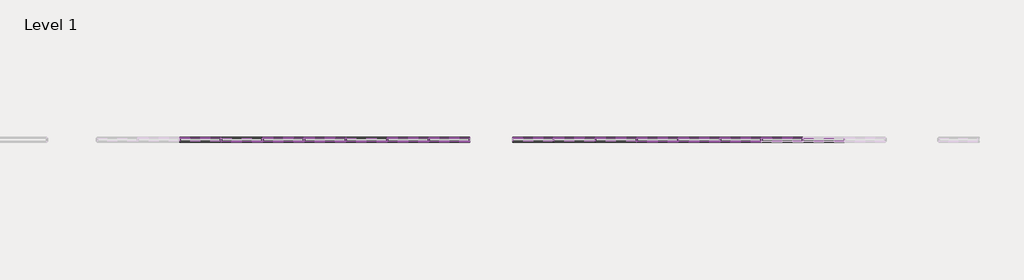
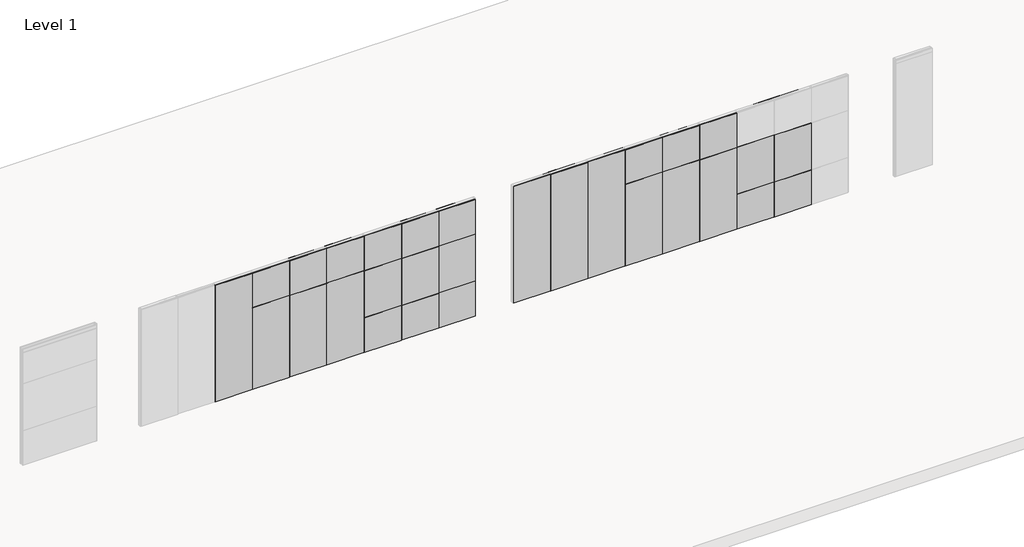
# One storey, part 9 of 22: 108 proxies.
"""IFC4 building model written with IfcOpenShell, lengths in millimetres."""

from ifc_helpers import new_model, si_unit, origin, place, context, project, spatial, transform, mapped, element, save
from components import fascia_teknion_ceiling_and_base_fpb1_33541465, fascia_teknion_ceiling_and_base_fpb1_a659cb20, fascia_teknion_ceiling_and_base_fpb1_fca0640a, fascia_teknion_ceiling_and_base_fpb1_76749516, frame_teknion_horizontal_rail_5872ae1a, frame_teknion_horizontal_rail_46ee653b, level_ii_d92933f0, level_ii_5838736d, level_ii_d9937d3a, level_ii_c8f04d20, monolithic_level_i_61e75e15, monolithic_level_i_13c59c03, monolithic_level_i_9525b381, monolithic_level_i_6e13c29d, monolithic_level_i_b876e52f, segmented_monolithic_level_i_26a9d159, segmented_monolithic_level_i_a3fcbb55, segmented_monolithic_level_i_932c30e3, segmented_monolithic_level_ii_ef75357c, segmented_monolithic_level_ii_062cb124, level_iii_17d9b208, working_wall_monolithic_level_i_ddfac440, working_wall_monolithic_level_i_34c567cd, working_wall_monolithic_level_i_759ace73, working_wall_monolithic_level_i_dc7e04ae, working_wall_monolithic_level_i_f3196e79, working_wall_monolithic_level_iii_b79156b4, working_wall_monolithic_level_iii_e35548a4

model = new_model("IFC4")

# Units and contexts
model_context = context("Model", 3, world=origin())
ifc_project = project(units=[si_unit("LENGTHUNIT", "METRE", prefix="MILLI")], contexts=[model_context])

# Site, building, storey
site = spatial("IfcSite", under=ifc_project)
building = spatial("IfcBuilding", under=site)
storey = spatial("IfcBuildingStorey", under=building, Name="Level 1", Elevation=0.0)

# Proxies
placement = place(None, origin())
fascia_teknion_ceiling_and_base_fpb1_shape = fascia_teknion_ceiling_and_base_fpb1_33541465(model_context)
element("IfcBuildingElementProxy", 1, Name="Fascia-Teknion-Ceiling_and_Base : FPB1", ObjectType="Fascia-Teknion-Ceiling_and_Base : FPB1", at=placement, inside=storey, context=model_context, shape_type="MappedRepresentation", body=[
    mapped(fascia_teknion_ceiling_and_base_fpb1_shape, transform((-45272.1636663, 1843.3402105, 15.875), x_axis=(1.0, 0.0, 0.0), y_axis=(0.0, 1.0, 0.0), z_axis=(0.0, 0.0, 1.0))),
])
fascia_teknion_ceiling_and_base_fpb1_2_shape = fascia_teknion_ceiling_and_base_fpb1_a659cb20(model_context)
element("IfcBuildingElementProxy", 2, Name="Fascia-Teknion-Ceiling_and_Base : FPB1", ObjectType="Fascia-Teknion-Ceiling_and_Base : FPB1", at=placement, inside=storey, context=model_context, shape_type="MappedRepresentation", body=[
    mapped(fascia_teknion_ceiling_and_base_fpb1_2_shape, transform((-50751.5687444, 1843.3402105, 15.875), x_axis=(1.0, 0.0, 0.0), y_axis=(0.0, 1.0, 0.0), z_axis=(0.0, 0.0, 1.0))),
])
element("IfcBuildingElementProxy", 3, Name="Fascia-Teknion-Ceiling_and_Base : FPB1", ObjectType="Fascia-Teknion-Ceiling_and_Base : FPB1", at=placement, inside=storey, context=model_context, shape_type="MappedRepresentation", body=[
    mapped(fascia_teknion_ceiling_and_base_fpb1_2_shape, transform((-48922.7687444, 1843.3402105, 15.875), x_axis=(1.0, 0.0, 0.0), y_axis=(0.0, 1.0, 0.0), z_axis=(0.0, 0.0, 1.0))),
])
element("IfcBuildingElementProxy", 4, Name="Fascia-Teknion-Ceiling_and_Base : FPB1", ObjectType="Fascia-Teknion-Ceiling_and_Base : FPB1", at=placement, inside=storey, context=model_context, shape_type="MappedRepresentation", body=[
    mapped(fascia_teknion_ceiling_and_base_fpb1_2_shape, transform((-48008.3687444, 1843.3402105, 15.875), x_axis=(1.0, 0.0, 0.0), y_axis=(0.0, 1.0, 0.0), z_axis=(0.0, 0.0, 1.0))),
])
element("IfcBuildingElementProxy", 5, Name="Fascia-Teknion-Ceiling_and_Base : FPB1", ObjectType="Fascia-Teknion-Ceiling_and_Base : FPB1", at=placement, inside=storey, context=model_context, shape_type="MappedRepresentation", body=[
    mapped(fascia_teknion_ceiling_and_base_fpb1_2_shape, transform((-46179.5687444, 1843.3402105, 15.875), x_axis=(1.0, 0.0, 0.0), y_axis=(0.0, 1.0, 0.0), z_axis=(0.0, 0.0, 1.0))),
])
element("IfcBuildingElementProxy", 6, Name="Fascia-Teknion-Ceiling_and_Base : FPB1", ObjectType="Fascia-Teknion-Ceiling_and_Base : FPB1", at=placement, inside=storey, context=model_context, shape_type="MappedRepresentation", body=[
    mapped(fascia_teknion_ceiling_and_base_fpb1_2_shape, transform((-49837.1687444, 1843.3402105, 15.875), x_axis=(1.0, 0.0, 0.0), y_axis=(0.0, 1.0, 0.0), z_axis=(0.0, 0.0, 1.0))),
])
element("IfcBuildingElementProxy", 7, Name="Fascia-Teknion-Ceiling_and_Base : FPB1", ObjectType="Fascia-Teknion-Ceiling_and_Base : FPB1", at=placement, inside=storey, context=model_context, shape_type="MappedRepresentation", body=[
    mapped(fascia_teknion_ceiling_and_base_fpb1_2_shape, transform((-47093.9687444, 1843.3402105, 15.875), x_axis=(1.0, 0.0, 0.0), y_axis=(0.0, 1.0, 0.0), z_axis=(0.0, 0.0, 1.0))),
])
fascia_teknion_ceiling_and_base_fpb1_3_shape = fascia_teknion_ceiling_and_base_fpb1_fca0640a(model_context)
element("IfcBuildingElementProxy", 8, Name="Fascia-Teknion-Ceiling_and_Base : FPC", ObjectType="Fascia-Teknion-Ceiling_and_Base : FPC", at=placement, inside=storey, context=model_context, shape_type="MappedRepresentation", body=[
    mapped(fascia_teknion_ceiling_and_base_fpb1_3_shape, transform((-42521.9687444, 1843.3402105, 2950.845), x_axis=(1.0, 0.0, 0.0), y_axis=(0.0, 1.0, 0.0), z_axis=(0.0, 0.0, 1.0))),
])
element("IfcBuildingElementProxy", 9, Name="Fascia-Teknion-Ceiling_and_Base : FPC", ObjectType="Fascia-Teknion-Ceiling_and_Base : FPC", at=placement, inside=storey, context=model_context, shape_type="MappedRepresentation", body=[
    mapped(fascia_teknion_ceiling_and_base_fpb1_3_shape, transform((-40693.1687444, 1843.3402105, 2950.845), x_axis=(1.0, 0.0, 0.0), y_axis=(0.0, 1.0, 0.0), z_axis=(0.0, 0.0, 1.0))),
])
element("IfcBuildingElementProxy", 10, Name="Fascia-Teknion-Ceiling_and_Base : FPC", ObjectType="Fascia-Teknion-Ceiling_and_Base : FPC", at=placement, inside=storey, context=model_context, shape_type="MappedRepresentation", body=[
    mapped(fascia_teknion_ceiling_and_base_fpb1_3_shape, transform((-39778.7687444, 1843.3402105, 2950.845), x_axis=(1.0, 0.0, 0.0), y_axis=(0.0, 1.0, 0.0), z_axis=(0.0, 0.0, 1.0))),
])
element("IfcBuildingElementProxy", 11, Name="Fascia-Teknion-Ceiling_and_Base : FPC", ObjectType="Fascia-Teknion-Ceiling_and_Base : FPC", at=placement, inside=storey, context=model_context, shape_type="MappedRepresentation", body=[
    mapped(fascia_teknion_ceiling_and_base_fpb1_3_shape, transform((-37949.9687444, 1843.3402105, 2950.845), x_axis=(1.0, 0.0, 0.0), y_axis=(0.0, 1.0, 0.0), z_axis=(0.0, 0.0, 1.0))),
])
element("IfcBuildingElementProxy", 12, Name="Fascia-Teknion-Ceiling_and_Base : FPC", ObjectType="Fascia-Teknion-Ceiling_and_Base : FPC", at=placement, inside=storey, context=model_context, shape_type="MappedRepresentation", body=[
    mapped(fascia_teknion_ceiling_and_base_fpb1_3_shape, transform((-37035.5687444, 1843.3402105, 2950.845), x_axis=(1.0, 0.0, 0.0), y_axis=(0.0, 1.0, 0.0), z_axis=(0.0, 0.0, 1.0))),
])
element("IfcBuildingElementProxy", 13, Name="Fascia-Teknion-Ceiling_and_Base : FPC", ObjectType="Fascia-Teknion-Ceiling_and_Base : FPC", at=placement, inside=storey, context=model_context, shape_type="MappedRepresentation", body=[
    mapped(fascia_teknion_ceiling_and_base_fpb1_3_shape, transform((-41607.5687444, 1843.3402105, 2950.845), x_axis=(1.0, 0.0, 0.0), y_axis=(0.0, 1.0, 0.0), z_axis=(0.0, 0.0, 1.0))),
])
element("IfcBuildingElementProxy", 14, Name="Fascia-Teknion-Ceiling_and_Base : FPC", ObjectType="Fascia-Teknion-Ceiling_and_Base : FPC", at=placement, inside=storey, context=model_context, shape_type="MappedRepresentation", body=[
    mapped(fascia_teknion_ceiling_and_base_fpb1_3_shape, transform((-38864.3687444, 1843.3402105, 2950.845), x_axis=(1.0, 0.0, 0.0), y_axis=(0.0, 1.0, 0.0), z_axis=(0.0, 0.0, 1.0))),
])
fascia_teknion_ceiling_and_base_fpb1_4_shape = fascia_teknion_ceiling_and_base_fpb1_76749516(model_context)
element("IfcBuildingElementProxy", 15, Name="Fascia-Teknion-Ceiling_and_Base : FPC", ObjectType="Fascia-Teknion-Ceiling_and_Base : FPC", at=placement, inside=storey, context=model_context, shape_type="MappedRepresentation", body=[
    mapped(fascia_teknion_ceiling_and_base_fpb1_4_shape, transform((-43429.3738225, 1843.3402105, 2950.845), x_axis=(1.0, 0.0, 0.0), y_axis=(0.0, 1.0, 0.0), z_axis=(0.0, 0.0, 1.0))),
])
frame_teknion_horizontal_rail_shape = frame_teknion_horizontal_rail_5872ae1a(model_context)
element("IfcBuildingElementProxy", 16, Name="Frame-Teknion-Horizontal_Rail : FPKK", ObjectType="Frame-Teknion-Horizontal_Rail : FPKK", at=placement, inside=storey, context=model_context, shape_type="MappedRepresentation", body=[
    mapped(frame_teknion_horizontal_rail_shape, transform((-43429.3738225, 1812.3522105, 2949.1305), x_axis=(1.0, 0.0, 0.0), y_axis=(0.0, 1.0, 0.0), z_axis=(0.0, 0.0, 1.0))),
])
element("IfcBuildingElementProxy", 17, Name="Frame-Teknion-Horizontal_Rail : FPKK", ObjectType="Frame-Teknion-Horizontal_Rail : FPKK", at=placement, inside=storey, context=model_context, shape_type="MappedRepresentation", body=[
    mapped(frame_teknion_horizontal_rail_shape, transform((-45272.1636663, 1812.3522105, 917.575), x_axis=(1.0, 0.0, 0.0), y_axis=(0.0, 1.0, 0.0), z_axis=(0.0, 0.0, 1.0))),
])
element("IfcBuildingElementProxy", 18, Name="Frame-Teknion-Horizontal_Rail : FPKK", ObjectType="Frame-Teknion-Horizontal_Rail : FPKK", at=placement, inside=storey, context=model_context, shape_type="MappedRepresentation", body=[
    mapped(frame_teknion_horizontal_rail_shape, transform((-45272.1636663, 1812.3522105, 2136.775), x_axis=(1.0, 0.0, 0.0), y_axis=(0.0, 1.0, 0.0), z_axis=(0.0, 0.0, 1.0))),
])
element("IfcBuildingElementProxy", 19, Name="Frame-Teknion-Horizontal_Rail : FPKK", ObjectType="Frame-Teknion-Horizontal_Rail : FPKK", at=placement, inside=storey, context=model_context, shape_type="MappedRepresentation", body=[
    mapped(frame_teknion_horizontal_rail_shape, transform((-45272.1636663, 1812.3522105, 151.257), x_axis=(1.0, 0.0, 0.0), y_axis=(0.0, 1.0, 0.0), z_axis=(0.0, 0.0, 1.0))),
])
frame_teknion_horizontal_rail_2_shape = frame_teknion_horizontal_rail_46ee653b(model_context)
element("IfcBuildingElementProxy", 20, Name="Frame-Teknion-Horizontal_Rail : FPKK", ObjectType="Frame-Teknion-Horizontal_Rail : FPKK", at=placement, inside=storey, context=model_context, shape_type="MappedRepresentation", body=[
    mapped(frame_teknion_horizontal_rail_2_shape, transform((-50751.5687444, 1812.3522105, 917.575), x_axis=(1.0, 0.0, 0.0), y_axis=(0.0, 1.0, 0.0), z_axis=(0.0, 0.0, 1.0))),
])
element("IfcBuildingElementProxy", 21, Name="Frame-Teknion-Horizontal_Rail : FPKK", ObjectType="Frame-Teknion-Horizontal_Rail : FPKK", at=placement, inside=storey, context=model_context, shape_type="MappedRepresentation", body=[
    mapped(frame_teknion_horizontal_rail_2_shape, transform((-50751.5687444, 1812.3522105, 2136.775), x_axis=(1.0, 0.0, 0.0), y_axis=(0.0, 1.0, 0.0), z_axis=(0.0, 0.0, 1.0))),
])
element("IfcBuildingElementProxy", 22, Name="Frame-Teknion-Horizontal_Rail : FPKK", ObjectType="Frame-Teknion-Horizontal_Rail : FPKK", at=placement, inside=storey, context=model_context, shape_type="MappedRepresentation", body=[
    mapped(frame_teknion_horizontal_rail_2_shape, transform((-50751.5687444, 1812.3522105, 151.257), x_axis=(1.0, 0.0, 0.0), y_axis=(0.0, 1.0, 0.0), z_axis=(0.0, 0.0, 1.0))),
])
element("IfcBuildingElementProxy", 23, Name="Frame-Teknion-Horizontal_Rail : FPKK", ObjectType="Frame-Teknion-Horizontal_Rail : FPKK", at=placement, inside=storey, context=model_context, shape_type="MappedRepresentation", body=[
    mapped(frame_teknion_horizontal_rail_2_shape, transform((-49837.1687444, 1812.3522105, 2136.775), x_axis=(1.0, 0.0, 0.0), y_axis=(0.0, 1.0, 0.0), z_axis=(0.0, 0.0, 1.0))),
])
element("IfcBuildingElementProxy", 24, Name="Frame-Teknion-Horizontal_Rail : FPKK", ObjectType="Frame-Teknion-Horizontal_Rail : FPKK", at=placement, inside=storey, context=model_context, shape_type="MappedRepresentation", body=[
    mapped(frame_teknion_horizontal_rail_2_shape, transform((-49837.1687444, 1812.3522105, 151.257), x_axis=(1.0, 0.0, 0.0), y_axis=(0.0, 1.0, 0.0), z_axis=(0.0, 0.0, 1.0))),
])
element("IfcBuildingElementProxy", 25, Name="Frame-Teknion-Horizontal_Rail : FPKK", ObjectType="Frame-Teknion-Horizontal_Rail : FPKK", at=placement, inside=storey, context=model_context, shape_type="MappedRepresentation", body=[
    mapped(frame_teknion_horizontal_rail_2_shape, transform((-48922.7687444, 1812.3522105, 2136.775), x_axis=(1.0, 0.0, 0.0), y_axis=(0.0, 1.0, 0.0), z_axis=(0.0, 0.0, 1.0))),
])
element("IfcBuildingElementProxy", 26, Name="Frame-Teknion-Horizontal_Rail : FPKK", ObjectType="Frame-Teknion-Horizontal_Rail : FPKK", at=placement, inside=storey, context=model_context, shape_type="MappedRepresentation", body=[
    mapped(frame_teknion_horizontal_rail_2_shape, transform((-48922.7687444, 1812.3522105, 151.257), x_axis=(1.0, 0.0, 0.0), y_axis=(0.0, 1.0, 0.0), z_axis=(0.0, 0.0, 1.0))),
])
element("IfcBuildingElementProxy", 27, Name="Frame-Teknion-Horizontal_Rail : FPKK", ObjectType="Frame-Teknion-Horizontal_Rail : FPKK", at=placement, inside=storey, context=model_context, shape_type="MappedRepresentation", body=[
    mapped(frame_teknion_horizontal_rail_2_shape, transform((-48008.3687444, 1812.3522105, 917.575), x_axis=(1.0, 0.0, 0.0), y_axis=(0.0, 1.0, 0.0), z_axis=(0.0, 0.0, 1.0))),
])
element("IfcBuildingElementProxy", 28, Name="Frame-Teknion-Horizontal_Rail : FPKK", ObjectType="Frame-Teknion-Horizontal_Rail : FPKK", at=placement, inside=storey, context=model_context, shape_type="MappedRepresentation", body=[
    mapped(frame_teknion_horizontal_rail_2_shape, transform((-48008.3687444, 1812.3522105, 2136.775), x_axis=(1.0, 0.0, 0.0), y_axis=(0.0, 1.0, 0.0), z_axis=(0.0, 0.0, 1.0))),
])
element("IfcBuildingElementProxy", 29, Name="Frame-Teknion-Horizontal_Rail : FPKK", ObjectType="Frame-Teknion-Horizontal_Rail : FPKK", at=placement, inside=storey, context=model_context, shape_type="MappedRepresentation", body=[
    mapped(frame_teknion_horizontal_rail_2_shape, transform((-48008.3687444, 1812.3522105, 151.257), x_axis=(1.0, 0.0, 0.0), y_axis=(0.0, 1.0, 0.0), z_axis=(0.0, 0.0, 1.0))),
])
element("IfcBuildingElementProxy", 30, Name="Frame-Teknion-Horizontal_Rail : FPKK", ObjectType="Frame-Teknion-Horizontal_Rail : FPKK", at=placement, inside=storey, context=model_context, shape_type="MappedRepresentation", body=[
    mapped(frame_teknion_horizontal_rail_2_shape, transform((-47093.9687444, 1812.3522105, 917.575), x_axis=(1.0, 0.0, 0.0), y_axis=(0.0, 1.0, 0.0), z_axis=(0.0, 0.0, 1.0))),
])
element("IfcBuildingElementProxy", 31, Name="Frame-Teknion-Horizontal_Rail : FPKK", ObjectType="Frame-Teknion-Horizontal_Rail : FPKK", at=placement, inside=storey, context=model_context, shape_type="MappedRepresentation", body=[
    mapped(frame_teknion_horizontal_rail_2_shape, transform((-47093.9687444, 1812.3522105, 2136.775), x_axis=(1.0, 0.0, 0.0), y_axis=(0.0, 1.0, 0.0), z_axis=(0.0, 0.0, 1.0))),
])
element("IfcBuildingElementProxy", 32, Name="Frame-Teknion-Horizontal_Rail : FPKK", ObjectType="Frame-Teknion-Horizontal_Rail : FPKK", at=placement, inside=storey, context=model_context, shape_type="MappedRepresentation", body=[
    mapped(frame_teknion_horizontal_rail_2_shape, transform((-47093.9687444, 1812.3522105, 151.257), x_axis=(1.0, 0.0, 0.0), y_axis=(0.0, 1.0, 0.0), z_axis=(0.0, 0.0, 1.0))),
])
element("IfcBuildingElementProxy", 33, Name="Frame-Teknion-Horizontal_Rail : FPKK", ObjectType="Frame-Teknion-Horizontal_Rail : FPKK", at=placement, inside=storey, context=model_context, shape_type="MappedRepresentation", body=[
    mapped(frame_teknion_horizontal_rail_2_shape, transform((-46179.5687444, 1812.3522105, 917.575), x_axis=(1.0, 0.0, 0.0), y_axis=(0.0, 1.0, 0.0), z_axis=(0.0, 0.0, 1.0))),
])
element("IfcBuildingElementProxy", 34, Name="Frame-Teknion-Horizontal_Rail : FPKK", ObjectType="Frame-Teknion-Horizontal_Rail : FPKK", at=placement, inside=storey, context=model_context, shape_type="MappedRepresentation", body=[
    mapped(frame_teknion_horizontal_rail_2_shape, transform((-46179.5687444, 1812.3522105, 2136.775), x_axis=(1.0, 0.0, 0.0), y_axis=(0.0, 1.0, 0.0), z_axis=(0.0, 0.0, 1.0))),
])
element("IfcBuildingElementProxy", 35, Name="Frame-Teknion-Horizontal_Rail : FPKK", ObjectType="Frame-Teknion-Horizontal_Rail : FPKK", at=placement, inside=storey, context=model_context, shape_type="MappedRepresentation", body=[
    mapped(frame_teknion_horizontal_rail_2_shape, transform((-46179.5687444, 1812.3522105, 151.257), x_axis=(1.0, 0.0, 0.0), y_axis=(0.0, 1.0, 0.0), z_axis=(0.0, 0.0, 1.0))),
])
element("IfcBuildingElementProxy", 36, Name="Frame-Teknion-Horizontal_Rail : FPKK", ObjectType="Frame-Teknion-Horizontal_Rail : FPKK", at=placement, inside=storey, context=model_context, shape_type="MappedRepresentation", body=[
    mapped(frame_teknion_horizontal_rail_2_shape, transform((-42521.9687444, 1812.3522105, 2136.775), x_axis=(1.0, 0.0, 0.0), y_axis=(0.0, 1.0, 0.0), z_axis=(0.0, 0.0, 1.0))),
])
element("IfcBuildingElementProxy", 37, Name="Frame-Teknion-Horizontal_Rail : FPKK", ObjectType="Frame-Teknion-Horizontal_Rail : FPKK", at=placement, inside=storey, context=model_context, shape_type="MappedRepresentation", body=[
    mapped(frame_teknion_horizontal_rail_2_shape, transform((-42521.9687444, 1812.3522105, 2949.1305), x_axis=(1.0, 0.0, 0.0), y_axis=(0.0, 1.0, 0.0), z_axis=(0.0, 0.0, 1.0))),
])
element("IfcBuildingElementProxy", 38, Name="Frame-Teknion-Horizontal_Rail : FPKK", ObjectType="Frame-Teknion-Horizontal_Rail : FPKK", at=placement, inside=storey, context=model_context, shape_type="MappedRepresentation", body=[
    mapped(frame_teknion_horizontal_rail_2_shape, transform((-41607.5687444, 1812.3522105, 917.575), x_axis=(1.0, 0.0, 0.0), y_axis=(0.0, 1.0, 0.0), z_axis=(0.0, 0.0, 1.0))),
])
element("IfcBuildingElementProxy", 39, Name="Frame-Teknion-Horizontal_Rail : FPKK", ObjectType="Frame-Teknion-Horizontal_Rail : FPKK", at=placement, inside=storey, context=model_context, shape_type="MappedRepresentation", body=[
    mapped(frame_teknion_horizontal_rail_2_shape, transform((-41607.5687444, 1812.3522105, 2136.775), x_axis=(1.0, 0.0, 0.0), y_axis=(0.0, 1.0, 0.0), z_axis=(0.0, 0.0, 1.0))),
])
element("IfcBuildingElementProxy", 40, Name="Frame-Teknion-Horizontal_Rail : FPKK", ObjectType="Frame-Teknion-Horizontal_Rail : FPKK", at=placement, inside=storey, context=model_context, shape_type="MappedRepresentation", body=[
    mapped(frame_teknion_horizontal_rail_2_shape, transform((-41607.5687444, 1812.3522105, 2949.1305), x_axis=(1.0, 0.0, 0.0), y_axis=(0.0, 1.0, 0.0), z_axis=(0.0, 0.0, 1.0))),
])
element("IfcBuildingElementProxy", 41, Name="Frame-Teknion-Horizontal_Rail : FPKK", ObjectType="Frame-Teknion-Horizontal_Rail : FPKK", at=placement, inside=storey, context=model_context, shape_type="MappedRepresentation", body=[
    mapped(frame_teknion_horizontal_rail_2_shape, transform((-40693.1687444, 1812.3522105, 917.575), x_axis=(1.0, 0.0, 0.0), y_axis=(0.0, 1.0, 0.0), z_axis=(0.0, 0.0, 1.0))),
])
element("IfcBuildingElementProxy", 42, Name="Frame-Teknion-Horizontal_Rail : FPKK", ObjectType="Frame-Teknion-Horizontal_Rail : FPKK", at=placement, inside=storey, context=model_context, shape_type="MappedRepresentation", body=[
    mapped(frame_teknion_horizontal_rail_2_shape, transform((-40693.1687444, 1812.3522105, 2949.1305), x_axis=(1.0, 0.0, 0.0), y_axis=(0.0, 1.0, 0.0), z_axis=(0.0, 0.0, 1.0))),
])
element("IfcBuildingElementProxy", 43, Name="Frame-Teknion-Horizontal_Rail : FPKK", ObjectType="Frame-Teknion-Horizontal_Rail : FPKK", at=placement, inside=storey, context=model_context, shape_type="MappedRepresentation", body=[
    mapped(frame_teknion_horizontal_rail_2_shape, transform((-39778.7687444, 1812.3522105, 2136.775), x_axis=(1.0, 0.0, 0.0), y_axis=(0.0, 1.0, 0.0), z_axis=(0.0, 0.0, 1.0))),
])
element("IfcBuildingElementProxy", 44, Name="Frame-Teknion-Horizontal_Rail : FPKK", ObjectType="Frame-Teknion-Horizontal_Rail : FPKK", at=placement, inside=storey, context=model_context, shape_type="MappedRepresentation", body=[
    mapped(frame_teknion_horizontal_rail_2_shape, transform((-39778.7687444, 1812.3522105, 2949.1305), x_axis=(1.0, 0.0, 0.0), y_axis=(0.0, 1.0, 0.0), z_axis=(0.0, 0.0, 1.0))),
])
element("IfcBuildingElementProxy", 45, Name="Frame-Teknion-Horizontal_Rail : FPKK", ObjectType="Frame-Teknion-Horizontal_Rail : FPKK", at=placement, inside=storey, context=model_context, shape_type="MappedRepresentation", body=[
    mapped(frame_teknion_horizontal_rail_2_shape, transform((-38864.3687444, 1812.3522105, 917.575), x_axis=(1.0, 0.0, 0.0), y_axis=(0.0, 1.0, 0.0), z_axis=(0.0, 0.0, 1.0))),
])
element("IfcBuildingElementProxy", 46, Name="Frame-Teknion-Horizontal_Rail : FPKK", ObjectType="Frame-Teknion-Horizontal_Rail : FPKK", at=placement, inside=storey, context=model_context, shape_type="MappedRepresentation", body=[
    mapped(frame_teknion_horizontal_rail_2_shape, transform((-38864.3687444, 1812.3522105, 2136.775), x_axis=(1.0, 0.0, 0.0), y_axis=(0.0, 1.0, 0.0), z_axis=(0.0, 0.0, 1.0))),
])
element("IfcBuildingElementProxy", 47, Name="Frame-Teknion-Horizontal_Rail : FPKK", ObjectType="Frame-Teknion-Horizontal_Rail : FPKK", at=placement, inside=storey, context=model_context, shape_type="MappedRepresentation", body=[
    mapped(frame_teknion_horizontal_rail_2_shape, transform((-38864.3687444, 1812.3522105, 2949.1305), x_axis=(1.0, 0.0, 0.0), y_axis=(0.0, 1.0, 0.0), z_axis=(0.0, 0.0, 1.0))),
])
element("IfcBuildingElementProxy", 48, Name="Frame-Teknion-Horizontal_Rail : FPKK", ObjectType="Frame-Teknion-Horizontal_Rail : FPKK", at=placement, inside=storey, context=model_context, shape_type="MappedRepresentation", body=[
    mapped(frame_teknion_horizontal_rail_2_shape, transform((-37949.9687444, 1812.3522105, 917.575), x_axis=(1.0, 0.0, 0.0), y_axis=(0.0, 1.0, 0.0), z_axis=(0.0, 0.0, 1.0))),
])
element("IfcBuildingElementProxy", 49, Name="Frame-Teknion-Horizontal_Rail : FPKK", ObjectType="Frame-Teknion-Horizontal_Rail : FPKK", at=placement, inside=storey, context=model_context, shape_type="MappedRepresentation", body=[
    mapped(frame_teknion_horizontal_rail_2_shape, transform((-37949.9687444, 1812.3522105, 2949.1305), x_axis=(1.0, 0.0, 0.0), y_axis=(0.0, 1.0, 0.0), z_axis=(0.0, 0.0, 1.0))),
])
element("IfcBuildingElementProxy", 50, Name="Frame-Teknion-Horizontal_Rail : FPKK", ObjectType="Frame-Teknion-Horizontal_Rail : FPKK", at=placement, inside=storey, context=model_context, shape_type="MappedRepresentation", body=[
    mapped(frame_teknion_horizontal_rail_2_shape, transform((-37035.5687444, 1812.3522105, 2136.775), x_axis=(1.0, 0.0, 0.0), y_axis=(0.0, 1.0, 0.0), z_axis=(0.0, 0.0, 1.0))),
])
element("IfcBuildingElementProxy", 51, Name="Frame-Teknion-Horizontal_Rail : FPKK", ObjectType="Frame-Teknion-Horizontal_Rail : FPKK", at=placement, inside=storey, context=model_context, shape_type="MappedRepresentation", body=[
    mapped(frame_teknion_horizontal_rail_2_shape, transform((-37035.5687444, 1812.3522105, 2949.1305), x_axis=(1.0, 0.0, 0.0), y_axis=(0.0, 1.0, 0.0), z_axis=(0.0, 0.0, 1.0))),
])
level_ii_shape = level_ii_d92933f0(model_context)
element("IfcBuildingElementProxy", 52, Name="Panel-Fascia-Teknion-Altos-Standard : Level II", ObjectType="Panel-Fascia-Teknion-Altos-Standard : Level II", at=placement, inside=storey, context=model_context, shape_type="MappedRepresentation", body=[
    mapped(level_ii_shape, transform((-45272.1636663, 1852.8652105, 917.575), x_axis=(1.0, 0.0, 0.0), y_axis=(0.0, 1.0, 0.0), z_axis=(0.0, 0.0, 1.0))),
])
level_ii_2_shape = level_ii_5838736d(model_context)
element("IfcBuildingElementProxy", 53, Name="Panel-Fascia-Teknion-Altos-Standard : Level II", ObjectType="Panel-Fascia-Teknion-Altos-Standard : Level II", at=placement, inside=storey, context=model_context, shape_type="MappedRepresentation", body=[
    mapped(level_ii_2_shape, transform((-50751.5687444, 1852.8652105, 917.575), x_axis=(1.0, 0.0, 0.0), y_axis=(0.0, 1.0, 0.0), z_axis=(0.0, 0.0, 1.0))),
])
element("IfcBuildingElementProxy", 54, Name="Panel-Fascia-Teknion-Altos-Standard : Level II", ObjectType="Panel-Fascia-Teknion-Altos-Standard : Level II", at=placement, inside=storey, context=model_context, shape_type="MappedRepresentation", body=[
    mapped(level_ii_2_shape, transform((-48008.3687444, 1852.8652105, 917.575), x_axis=(1.0, 0.0, 0.0), y_axis=(0.0, 1.0, 0.0), z_axis=(0.0, 0.0, 1.0))),
])
element("IfcBuildingElementProxy", 55, Name="Panel-Fascia-Teknion-Altos-Standard : Level II", ObjectType="Panel-Fascia-Teknion-Altos-Standard : Level II", at=placement, inside=storey, context=model_context, shape_type="MappedRepresentation", body=[
    mapped(level_ii_2_shape, transform((-41607.5687444, 1852.8652105, 917.575), x_axis=(1.0, 0.0, 0.0), y_axis=(0.0, 1.0, 0.0), z_axis=(0.0, 0.0, 1.0))),
])
element("IfcBuildingElementProxy", 56, Name="Panel-Fascia-Teknion-Altos-Standard : Level II", ObjectType="Panel-Fascia-Teknion-Altos-Standard : Level II", at=placement, inside=storey, context=model_context, shape_type="MappedRepresentation", body=[
    mapped(level_ii_2_shape, transform((-38864.3687444, 1852.8652105, 917.575), x_axis=(1.0, 0.0, 0.0), y_axis=(0.0, 1.0, 0.0), z_axis=(0.0, 0.0, 1.0))),
])
level_ii_3_shape = level_ii_d9937d3a(model_context)
element("IfcBuildingElementProxy", 57, Name="Panel-Fascia-Teknion-Altos-Standard : Level II", ObjectType="Panel-Fascia-Teknion-Altos-Standard : Level II", at=placement, inside=storey, context=model_context, shape_type="MappedRepresentation", body=[
    mapped(level_ii_3_shape, transform((-45272.1636663, 1771.8392105, 917.575), x_axis=(1.0, 0.0, 0.0), y_axis=(0.0, 1.0, 0.0), z_axis=(0.0, 0.0, 1.0))),
])
level_ii_4_shape = level_ii_c8f04d20(model_context)
element("IfcBuildingElementProxy", 58, Name="Panel-Fascia-Teknion-Altos-Standard : Level II", ObjectType="Panel-Fascia-Teknion-Altos-Standard : Level II", at=placement, inside=storey, context=model_context, shape_type="MappedRepresentation", body=[
    mapped(level_ii_4_shape, transform((-37035.5687444, 1771.8392105, 917.575), x_axis=(1.0, 0.0, 0.0), y_axis=(0.0, 1.0, 0.0), z_axis=(0.0, 0.0, 1.0))),
])
element("IfcBuildingElementProxy", 59, Name="Panel-Fascia-Teknion-Altos-Standard : Level II", ObjectType="Panel-Fascia-Teknion-Altos-Standard : Level II", at=placement, inside=storey, context=model_context, shape_type="MappedRepresentation", body=[
    mapped(level_ii_4_shape, transform((-47093.9687444, 1771.8392105, 917.575), x_axis=(1.0, 0.0, 0.0), y_axis=(0.0, 1.0, 0.0), z_axis=(0.0, 0.0, 1.0))),
])
element("IfcBuildingElementProxy", 60, Name="Panel-Fascia-Teknion-Altos-Standard : Level II", ObjectType="Panel-Fascia-Teknion-Altos-Standard : Level II", at=placement, inside=storey, context=model_context, shape_type="MappedRepresentation", body=[
    mapped(level_ii_4_shape, transform((-46179.5687444, 1771.8392105, 917.575), x_axis=(1.0, 0.0, 0.0), y_axis=(0.0, 1.0, 0.0), z_axis=(0.0, 0.0, 1.0))),
])
element("IfcBuildingElementProxy", 61, Name="Panel-Fascia-Teknion-Altos-Standard : Level II", ObjectType="Panel-Fascia-Teknion-Altos-Standard : Level II", at=placement, inside=storey, context=model_context, shape_type="MappedRepresentation", body=[
    mapped(level_ii_4_shape, transform((-37949.9687444, 1771.8392105, 917.575), x_axis=(1.0, 0.0, 0.0), y_axis=(0.0, 1.0, 0.0), z_axis=(0.0, 0.0, 1.0))),
])
monolithic_level_i_shape = monolithic_level_i_61e75e15(model_context)
element("IfcBuildingElementProxy", 62, Name="Panel-Fascia-Teknion-Altos-Standard : Monolithic Level I", ObjectType="Panel-Fascia-Teknion-Altos-Standard : Monolithic Level I", at=placement, inside=storey, context=model_context, shape_type="MappedRepresentation", body=[
    mapped(monolithic_level_i_shape, transform((-43429.3738225, 1771.8392105, 12.7), x_axis=(1.0, 0.0, 0.0), y_axis=(0.0, 1.0, 0.0), z_axis=(0.0, 0.0, 1.0))),
])
monolithic_level_i_2_shape = monolithic_level_i_13c59c03(model_context)
element("IfcBuildingElementProxy", 63, Name="Panel-Fascia-Teknion-Altos-Standard : Monolithic Level I", ObjectType="Panel-Fascia-Teknion-Altos-Standard : Monolithic Level I", at=placement, inside=storey, context=model_context, shape_type="MappedRepresentation", body=[
    mapped(monolithic_level_i_2_shape, transform((-42521.9687444, 1771.8392105, 12.7), x_axis=(1.0, 0.0, 0.0), y_axis=(0.0, 1.0, 0.0), z_axis=(0.0, 0.0, 1.0))),
])
element("IfcBuildingElementProxy", 64, Name="Panel-Fascia-Teknion-Altos-Standard : Monolithic Level I", ObjectType="Panel-Fascia-Teknion-Altos-Standard : Monolithic Level I", at=placement, inside=storey, context=model_context, shape_type="MappedRepresentation", body=[
    mapped(monolithic_level_i_2_shape, transform((-41607.5687444, 1771.8392105, 12.7), x_axis=(1.0, 0.0, 0.0), y_axis=(0.0, 1.0, 0.0), z_axis=(0.0, 0.0, 1.0))),
])
element("IfcBuildingElementProxy", 65, Name="Panel-Fascia-Teknion-Altos-Standard : Monolithic Level I", ObjectType="Panel-Fascia-Teknion-Altos-Standard : Monolithic Level I", at=placement, inside=storey, context=model_context, shape_type="MappedRepresentation", body=[
    mapped(monolithic_level_i_2_shape, transform((-50751.5687444, 1771.8392105, 12.7), x_axis=(1.0, 0.0, 0.0), y_axis=(0.0, 1.0, 0.0), z_axis=(0.0, 0.0, 1.0))),
])
monolithic_level_i_3_shape = monolithic_level_i_9525b381(model_context)
element("IfcBuildingElementProxy", 66, Name="Panel-Fascia-Teknion-Altos-Standard : Monolithic Level I", ObjectType="Panel-Fascia-Teknion-Altos-Standard : Monolithic Level I", at=placement, inside=storey, context=model_context, shape_type="MappedRepresentation", body=[
    mapped(monolithic_level_i_3_shape, transform((-49837.1687444, 1852.8652105, 151.257), x_axis=(1.0, 0.0, 0.0), y_axis=(0.0, 1.0, 0.0), z_axis=(0.0, 0.0, 1.0))),
])
element("IfcBuildingElementProxy", 67, Name="Panel-Fascia-Teknion-Altos-Standard : Monolithic Level I", ObjectType="Panel-Fascia-Teknion-Altos-Standard : Monolithic Level I", at=placement, inside=storey, context=model_context, shape_type="MappedRepresentation", body=[
    mapped(monolithic_level_i_3_shape, transform((-47093.9687444, 1852.8652105, 151.257), x_axis=(1.0, 0.0, 0.0), y_axis=(0.0, 1.0, 0.0), z_axis=(0.0, 0.0, 1.0))),
])
monolithic_level_i_4_shape = monolithic_level_i_6e13c29d(model_context)
element("IfcBuildingElementProxy", 68, Name="Panel-Fascia-Teknion-Altos-Standard : Monolithic Level I", ObjectType="Panel-Fascia-Teknion-Altos-Standard : Monolithic Level I", at=placement, inside=storey, context=model_context, shape_type="MappedRepresentation", body=[
    mapped(monolithic_level_i_4_shape, transform((-43429.3738225, 1852.8652105, 12.7), x_axis=(1.0, 0.0, 0.0), y_axis=(0.0, 1.0, 0.0), z_axis=(0.0, 0.0, 1.0))),
])
monolithic_level_i_5_shape = monolithic_level_i_b876e52f(model_context)
element("IfcBuildingElementProxy", 69, Name="Panel-Fascia-Teknion-Altos-Standard : Monolithic Level I", ObjectType="Panel-Fascia-Teknion-Altos-Standard : Monolithic Level I", at=placement, inside=storey, context=model_context, shape_type="MappedRepresentation", body=[
    mapped(monolithic_level_i_5_shape, transform((-40693.1687444, 1852.8652105, 12.7), x_axis=(1.0, 0.0, 0.0), y_axis=(0.0, 1.0, 0.0), z_axis=(0.0, 0.0, 1.0))),
])
element("IfcBuildingElementProxy", 70, Name="Panel-Fascia-Teknion-Altos-Standard : Monolithic Level I", ObjectType="Panel-Fascia-Teknion-Altos-Standard : Monolithic Level I", at=placement, inside=storey, context=model_context, shape_type="MappedRepresentation", body=[
    mapped(monolithic_level_i_5_shape, transform((-37949.9687444, 1852.8652105, 12.7), x_axis=(1.0, 0.0, 0.0), y_axis=(0.0, 1.0, 0.0), z_axis=(0.0, 0.0, 1.0))),
])
segmented_monolithic_level_i_shape = segmented_monolithic_level_i_26a9d159(model_context)
element("IfcBuildingElementProxy", 71, Name="Panel-Fascia-Teknion-Altos-Standard : Segmented Monolithic Level I", ObjectType="Panel-Fascia-Teknion-Altos-Standard : Segmented Monolithic Level I", at=placement, inside=storey, context=model_context, shape_type="MappedRepresentation", body=[
    mapped(segmented_monolithic_level_i_shape, transform((-48008.3687444, 1771.8392105, 12.7), x_axis=(1.0, 0.0, 0.0), y_axis=(0.0, 1.0, 0.0), z_axis=(0.0, 0.0, 1.0))),
])
element("IfcBuildingElementProxy", 72, Name="Panel-Fascia-Teknion-Altos-Standard : Segmented Monolithic Level I", ObjectType="Panel-Fascia-Teknion-Altos-Standard : Segmented Monolithic Level I", at=placement, inside=storey, context=model_context, shape_type="MappedRepresentation", body=[
    mapped(segmented_monolithic_level_i_shape, transform((-39778.7687444, 1771.8392105, 12.7), x_axis=(1.0, 0.0, 0.0), y_axis=(0.0, 1.0, 0.0), z_axis=(0.0, 0.0, 1.0))),
])
element("IfcBuildingElementProxy", 73, Name="Panel-Fascia-Teknion-Altos-Standard : Segmented Monolithic Level I", ObjectType="Panel-Fascia-Teknion-Altos-Standard : Segmented Monolithic Level I", at=placement, inside=storey, context=model_context, shape_type="MappedRepresentation", body=[
    mapped(segmented_monolithic_level_i_shape, transform((-38864.3687444, 1771.8392105, 12.7), x_axis=(1.0, 0.0, 0.0), y_axis=(0.0, 1.0, 0.0), z_axis=(0.0, 0.0, 1.0))),
])
element("IfcBuildingElementProxy", 74, Name="Panel-Fascia-Teknion-Altos-Standard : Segmented Monolithic Level I", ObjectType="Panel-Fascia-Teknion-Altos-Standard : Segmented Monolithic Level I", at=placement, inside=storey, context=model_context, shape_type="MappedRepresentation", body=[
    mapped(segmented_monolithic_level_i_shape, transform((-49837.1687444, 1771.8392105, 12.7), x_axis=(1.0, 0.0, 0.0), y_axis=(0.0, 1.0, 0.0), z_axis=(0.0, 0.0, 1.0))),
])
element("IfcBuildingElementProxy", 75, Name="Panel-Fascia-Teknion-Altos-Standard : Segmented Monolithic Level I", ObjectType="Panel-Fascia-Teknion-Altos-Standard : Segmented Monolithic Level I", at=placement, inside=storey, context=model_context, shape_type="MappedRepresentation", body=[
    mapped(segmented_monolithic_level_i_shape, transform((-48922.7687444, 1771.8392105, 12.7), x_axis=(1.0, 0.0, 0.0), y_axis=(0.0, 1.0, 0.0), z_axis=(0.0, 0.0, 1.0))),
])
element("IfcBuildingElementProxy", 76, Name="Panel-Fascia-Teknion-Altos-Standard : Segmented Monolithic Level I", ObjectType="Panel-Fascia-Teknion-Altos-Standard : Segmented Monolithic Level I", at=placement, inside=storey, context=model_context, shape_type="MappedRepresentation", body=[
    mapped(segmented_monolithic_level_i_shape, transform((-40693.1687444, 1771.8392105, 12.7), x_axis=(1.0, 0.0, 0.0), y_axis=(0.0, 1.0, 0.0), z_axis=(0.0, 0.0, 1.0))),
])
segmented_monolithic_level_i_2_shape = segmented_monolithic_level_i_a3fcbb55(model_context)
element("IfcBuildingElementProxy", 77, Name="Panel-Fascia-Teknion-Altos-Standard : Segmented Monolithic Level I", ObjectType="Panel-Fascia-Teknion-Altos-Standard : Segmented Monolithic Level I", at=placement, inside=storey, context=model_context, shape_type="MappedRepresentation", body=[
    mapped(segmented_monolithic_level_i_2_shape, transform((-48922.7687444, 1852.8652105, 147.955), x_axis=(1.0, 0.0, 0.0), y_axis=(0.0, 1.0, 0.0), z_axis=(0.0, 0.0, 1.0))),
])
element("IfcBuildingElementProxy", 78, Name="Panel-Fascia-Teknion-Altos-Standard : Segmented Monolithic Level I", ObjectType="Panel-Fascia-Teknion-Altos-Standard : Segmented Monolithic Level I", at=placement, inside=storey, context=model_context, shape_type="MappedRepresentation", body=[
    mapped(segmented_monolithic_level_i_2_shape, transform((-46179.5687444, 1852.8652105, 147.955), x_axis=(1.0, 0.0, 0.0), y_axis=(0.0, 1.0, 0.0), z_axis=(0.0, 0.0, 1.0))),
])
segmented_monolithic_level_i_3_shape = segmented_monolithic_level_i_932c30e3(model_context)
element("IfcBuildingElementProxy", 79, Name="Panel-Fascia-Teknion-Altos-Standard : Segmented Monolithic Level I", ObjectType="Panel-Fascia-Teknion-Altos-Standard : Segmented Monolithic Level I", at=placement, inside=storey, context=model_context, shape_type="MappedRepresentation", body=[
    mapped(segmented_monolithic_level_i_3_shape, transform((-42521.9687444, 1852.8652105, 12.7), x_axis=(1.0, 0.0, 0.0), y_axis=(0.0, 1.0, 0.0), z_axis=(0.0, 0.0, 1.0))),
])
element("IfcBuildingElementProxy", 80, Name="Panel-Fascia-Teknion-Altos-Standard : Segmented Monolithic Level I", ObjectType="Panel-Fascia-Teknion-Altos-Standard : Segmented Monolithic Level I", at=placement, inside=storey, context=model_context, shape_type="MappedRepresentation", body=[
    mapped(segmented_monolithic_level_i_3_shape, transform((-39778.7687444, 1852.8652105, 12.7), x_axis=(1.0, 0.0, 0.0), y_axis=(0.0, 1.0, 0.0), z_axis=(0.0, 0.0, 1.0))),
])
segmented_monolithic_level_ii_shape = segmented_monolithic_level_ii_ef75357c(model_context)
element("IfcBuildingElementProxy", 81, Name="Panel-Fascia-Teknion-Altos-Standard : Segmented Monolithic Level II", ObjectType="Panel-Fascia-Teknion-Altos-Standard : Segmented Monolithic Level II", at=placement, inside=storey, context=model_context, shape_type="MappedRepresentation", body=[
    mapped(segmented_monolithic_level_ii_shape, transform((-48008.3687444, 1771.8392105, 2136.775), x_axis=(1.0, 0.0, 0.0), y_axis=(0.0, 1.0, 0.0), z_axis=(0.0, 0.0, 1.0))),
])
element("IfcBuildingElementProxy", 82, Name="Panel-Fascia-Teknion-Altos-Standard : Segmented Monolithic Level II", ObjectType="Panel-Fascia-Teknion-Altos-Standard : Segmented Monolithic Level II", at=placement, inside=storey, context=model_context, shape_type="MappedRepresentation", body=[
    mapped(segmented_monolithic_level_ii_shape, transform((-38864.3687444, 1771.8392105, 2136.775), x_axis=(1.0, 0.0, 0.0), y_axis=(0.0, 1.0, 0.0), z_axis=(0.0, 0.0, 1.0))),
])
element("IfcBuildingElementProxy", 83, Name="Panel-Fascia-Teknion-Altos-Standard : Segmented Monolithic Level II", ObjectType="Panel-Fascia-Teknion-Altos-Standard : Segmented Monolithic Level II", at=placement, inside=storey, context=model_context, shape_type="MappedRepresentation", body=[
    mapped(segmented_monolithic_level_ii_shape, transform((-49837.1687444, 1771.8392105, 2136.775), x_axis=(1.0, 0.0, 0.0), y_axis=(0.0, 1.0, 0.0), z_axis=(0.0, 0.0, 1.0))),
])
element("IfcBuildingElementProxy", 84, Name="Panel-Fascia-Teknion-Altos-Standard : Segmented Monolithic Level II", ObjectType="Panel-Fascia-Teknion-Altos-Standard : Segmented Monolithic Level II", at=placement, inside=storey, context=model_context, shape_type="MappedRepresentation", body=[
    mapped(segmented_monolithic_level_ii_shape, transform((-48922.7687444, 1771.8392105, 2136.775), x_axis=(1.0, 0.0, 0.0), y_axis=(0.0, 1.0, 0.0), z_axis=(0.0, 0.0, 1.0))),
])
element("IfcBuildingElementProxy", 85, Name="Panel-Fascia-Teknion-Altos-Standard : Segmented Monolithic Level II", ObjectType="Panel-Fascia-Teknion-Altos-Standard : Segmented Monolithic Level II", at=placement, inside=storey, context=model_context, shape_type="MappedRepresentation", body=[
    mapped(segmented_monolithic_level_ii_shape, transform((-40693.1687444, 1771.8392105, 2136.775), x_axis=(1.0, 0.0, 0.0), y_axis=(0.0, 1.0, 0.0), z_axis=(0.0, 0.0, 1.0))),
])
element("IfcBuildingElementProxy", 86, Name="Panel-Fascia-Teknion-Altos-Standard : Segmented Monolithic Level II", ObjectType="Panel-Fascia-Teknion-Altos-Standard : Segmented Monolithic Level II", at=placement, inside=storey, context=model_context, shape_type="MappedRepresentation", body=[
    mapped(segmented_monolithic_level_ii_shape, transform((-39778.7687444, 1771.8392105, 2136.775), x_axis=(1.0, 0.0, 0.0), y_axis=(0.0, 1.0, 0.0), z_axis=(0.0, 0.0, 1.0))),
])
segmented_monolithic_level_ii_2_shape = segmented_monolithic_level_ii_062cb124(model_context)
element("IfcBuildingElementProxy", 87, Name="Panel-Fascia-Teknion-Altos-Standard : Segmented Monolithic Level II", ObjectType="Panel-Fascia-Teknion-Altos-Standard : Segmented Monolithic Level II", at=placement, inside=storey, context=model_context, shape_type="MappedRepresentation", body=[
    mapped(segmented_monolithic_level_ii_2_shape, transform((-48922.7687444, 1852.8652105, 2136.775), x_axis=(1.0, 0.0, 0.0), y_axis=(0.0, 1.0, 0.0), z_axis=(0.0, 0.0, 1.0))),
])
element("IfcBuildingElementProxy", 88, Name="Panel-Fascia-Teknion-Altos-Standard : Segmented Monolithic Level II", ObjectType="Panel-Fascia-Teknion-Altos-Standard : Segmented Monolithic Level II", at=placement, inside=storey, context=model_context, shape_type="MappedRepresentation", body=[
    mapped(segmented_monolithic_level_ii_2_shape, transform((-46179.5687444, 1852.8652105, 2136.775), x_axis=(1.0, 0.0, 0.0), y_axis=(0.0, 1.0, 0.0), z_axis=(0.0, 0.0, 1.0))),
])
level_iii_shape = level_iii_17d9b208(model_context)
element("IfcBuildingElementProxy", 89, Name="Panel-Fascia-Teknion-Altos-Standard : Segmented Monolithic Level II", ObjectType="Panel-Fascia-Teknion-Altos-Standard : Segmented Monolithic Level II", at=placement, inside=storey, context=model_context, shape_type="MappedRepresentation", body=[
    mapped(level_iii_shape, transform((-42521.9687444, 1852.8652105, 2136.775), x_axis=(1.0, 0.0, 0.0), y_axis=(0.0, 1.0, 0.0), z_axis=(0.0, 0.0, 1.0))),
])
element("IfcBuildingElementProxy", 90, Name="Panel-Fascia-Teknion-Altos-Standard : Segmented Monolithic Level II", ObjectType="Panel-Fascia-Teknion-Altos-Standard : Segmented Monolithic Level II", at=placement, inside=storey, context=model_context, shape_type="MappedRepresentation", body=[
    mapped(level_iii_shape, transform((-39778.7687444, 1852.8652105, 2136.775), x_axis=(1.0, 0.0, 0.0), y_axis=(0.0, 1.0, 0.0), z_axis=(0.0, 0.0, 1.0))),
])
working_wall_monolithic_level_i_shape = working_wall_monolithic_level_i_ddfac440(model_context)
element("IfcBuildingElementProxy", 91, Name="Panel-Fascia-Teknion-Altos-Standard : Working Wall Monolithic Level I", ObjectType="Panel-Fascia-Teknion-Altos-Standard : Working Wall Monolithic Level I", at=placement, inside=storey, context=model_context, shape_type="MappedRepresentation", body=[
    mapped(working_wall_monolithic_level_i_shape, transform((-47093.9687444, 1771.8392105, 12.7), x_axis=(1.0, 0.0, 0.0), y_axis=(0.0, 1.0, 0.0), z_axis=(0.0, 0.0, 1.0))),
])
element("IfcBuildingElementProxy", 92, Name="Panel-Fascia-Teknion-Altos-Standard : Working Wall Monolithic Level I", ObjectType="Panel-Fascia-Teknion-Altos-Standard : Working Wall Monolithic Level I", at=placement, inside=storey, context=model_context, shape_type="MappedRepresentation", body=[
    mapped(working_wall_monolithic_level_i_shape, transform((-37035.5687444, 1771.8392105, 12.7), x_axis=(1.0, 0.0, 0.0), y_axis=(0.0, 1.0, 0.0), z_axis=(0.0, 0.0, 1.0))),
])
element("IfcBuildingElementProxy", 93, Name="Panel-Fascia-Teknion-Altos-Standard : Working Wall Monolithic Level I", ObjectType="Panel-Fascia-Teknion-Altos-Standard : Working Wall Monolithic Level I", at=placement, inside=storey, context=model_context, shape_type="MappedRepresentation", body=[
    mapped(working_wall_monolithic_level_i_shape, transform((-46179.5687444, 1771.8392105, 12.7), x_axis=(1.0, 0.0, 0.0), y_axis=(0.0, 1.0, 0.0), z_axis=(0.0, 0.0, 1.0))),
])
element("IfcBuildingElementProxy", 94, Name="Panel-Fascia-Teknion-Altos-Standard : Working Wall Monolithic Level I", ObjectType="Panel-Fascia-Teknion-Altos-Standard : Working Wall Monolithic Level I", at=placement, inside=storey, context=model_context, shape_type="MappedRepresentation", body=[
    mapped(working_wall_monolithic_level_i_shape, transform((-37949.9687444, 1771.8392105, 12.7), x_axis=(1.0, 0.0, 0.0), y_axis=(0.0, 1.0, 0.0), z_axis=(0.0, 0.0, 1.0))),
])
working_wall_monolithic_level_i_2_shape = working_wall_monolithic_level_i_34c567cd(model_context)
element("IfcBuildingElementProxy", 95, Name="Panel-Fascia-Teknion-Altos-Standard : Working Wall Monolithic Level I", ObjectType="Panel-Fascia-Teknion-Altos-Standard : Working Wall Monolithic Level I", at=placement, inside=storey, context=model_context, shape_type="MappedRepresentation", body=[
    mapped(working_wall_monolithic_level_i_2_shape, transform((-50751.5687444, 1852.8652105, 151.257), x_axis=(1.0, 0.0, 0.0), y_axis=(0.0, 1.0, 0.0), z_axis=(0.0, 0.0, 1.0))),
])
element("IfcBuildingElementProxy", 96, Name="Panel-Fascia-Teknion-Altos-Standard : Working Wall Monolithic Level I", ObjectType="Panel-Fascia-Teknion-Altos-Standard : Working Wall Monolithic Level I", at=placement, inside=storey, context=model_context, shape_type="MappedRepresentation", body=[
    mapped(working_wall_monolithic_level_i_2_shape, transform((-48008.3687444, 1852.8652105, 151.257), x_axis=(1.0, 0.0, 0.0), y_axis=(0.0, 1.0, 0.0), z_axis=(0.0, 0.0, 1.0))),
])
working_wall_monolithic_level_i_3_shape = working_wall_monolithic_level_i_759ace73(model_context)
element("IfcBuildingElementProxy", 97, Name="Panel-Fascia-Teknion-Altos-Standard : Working Wall Monolithic Level I", ObjectType="Panel-Fascia-Teknion-Altos-Standard : Working Wall Monolithic Level I", at=placement, inside=storey, context=model_context, shape_type="MappedRepresentation", body=[
    mapped(working_wall_monolithic_level_i_3_shape, transform((-45272.1636663, 1771.8392105, 12.7), x_axis=(1.0, 0.0, 0.0), y_axis=(0.0, 1.0, 0.0), z_axis=(0.0, 0.0, 1.0))),
])
working_wall_monolithic_level_i_4_shape = working_wall_monolithic_level_i_dc7e04ae(model_context)
element("IfcBuildingElementProxy", 98, Name="Panel-Fascia-Teknion-Altos-Standard : Working Wall Monolithic Level I", ObjectType="Panel-Fascia-Teknion-Altos-Standard : Working Wall Monolithic Level I", at=placement, inside=storey, context=model_context, shape_type="MappedRepresentation", body=[
    mapped(working_wall_monolithic_level_i_4_shape, transform((-45272.1636663, 1852.8652105, 151.257), x_axis=(1.0, 0.0, 0.0), y_axis=(0.0, 1.0, 0.0), z_axis=(0.0, 0.0, 1.0))),
])
working_wall_monolithic_level_i_5_shape = working_wall_monolithic_level_i_f3196e79(model_context)
element("IfcBuildingElementProxy", 99, Name="Panel-Fascia-Teknion-Altos-Standard : Working Wall Monolithic Level I", ObjectType="Panel-Fascia-Teknion-Altos-Standard : Working Wall Monolithic Level I", at=placement, inside=storey, context=model_context, shape_type="MappedRepresentation", body=[
    mapped(working_wall_monolithic_level_i_5_shape, transform((-41607.5687444, 1852.8652105, 12.7), x_axis=(1.0, 0.0, 0.0), y_axis=(0.0, 1.0, 0.0), z_axis=(0.0, 0.0, 1.0))),
])
element("IfcBuildingElementProxy", 100, Name="Panel-Fascia-Teknion-Altos-Standard : Working Wall Monolithic Level I", ObjectType="Panel-Fascia-Teknion-Altos-Standard : Working Wall Monolithic Level I", at=placement, inside=storey, context=model_context, shape_type="MappedRepresentation", body=[
    mapped(working_wall_monolithic_level_i_5_shape, transform((-38864.3687444, 1852.8652105, 12.7), x_axis=(1.0, 0.0, 0.0), y_axis=(0.0, 1.0, 0.0), z_axis=(0.0, 0.0, 1.0))),
])
element("IfcBuildingElementProxy", 101, Name="Panel-Fascia-Teknion-Altos-Standard : Working Wall Monolithic Level III", ObjectType="Panel-Fascia-Teknion-Altos-Standard : Working Wall Monolithic Level III", at=placement, inside=storey, context=model_context, shape_type="MappedRepresentation", body=[
    mapped(segmented_monolithic_level_ii_shape, transform((-47093.9687444, 1771.8392105, 2136.775), x_axis=(1.0, 0.0, 0.0), y_axis=(0.0, 1.0, 0.0), z_axis=(0.0, 0.0, 1.0))),
])
element("IfcBuildingElementProxy", 102, Name="Panel-Fascia-Teknion-Altos-Standard : Working Wall Monolithic Level III", ObjectType="Panel-Fascia-Teknion-Altos-Standard : Working Wall Monolithic Level III", at=placement, inside=storey, context=model_context, shape_type="MappedRepresentation", body=[
    mapped(segmented_monolithic_level_ii_shape, transform((-46179.5687444, 1771.8392105, 2136.775), x_axis=(1.0, 0.0, 0.0), y_axis=(0.0, 1.0, 0.0), z_axis=(0.0, 0.0, 1.0))),
])
element("IfcBuildingElementProxy", 103, Name="Panel-Fascia-Teknion-Altos-Standard : Working Wall Monolithic Level III", ObjectType="Panel-Fascia-Teknion-Altos-Standard : Working Wall Monolithic Level III", at=placement, inside=storey, context=model_context, shape_type="MappedRepresentation", body=[
    mapped(segmented_monolithic_level_ii_2_shape, transform((-50751.5687444, 1852.8652105, 2136.775), x_axis=(1.0, 0.0, 0.0), y_axis=(0.0, 1.0, 0.0), z_axis=(0.0, 0.0, 1.0))),
])
element("IfcBuildingElementProxy", 104, Name="Panel-Fascia-Teknion-Altos-Standard : Working Wall Monolithic Level III", ObjectType="Panel-Fascia-Teknion-Altos-Standard : Working Wall Monolithic Level III", at=placement, inside=storey, context=model_context, shape_type="MappedRepresentation", body=[
    mapped(segmented_monolithic_level_ii_2_shape, transform((-48008.3687444, 1852.8652105, 2136.775), x_axis=(1.0, 0.0, 0.0), y_axis=(0.0, 1.0, 0.0), z_axis=(0.0, 0.0, 1.0))),
])
working_wall_monolithic_level_iii_shape = working_wall_monolithic_level_iii_b79156b4(model_context)
element("IfcBuildingElementProxy", 105, Name="Panel-Fascia-Teknion-Altos-Standard : Working Wall Monolithic Level III", ObjectType="Panel-Fascia-Teknion-Altos-Standard : Working Wall Monolithic Level III", at=placement, inside=storey, context=model_context, shape_type="MappedRepresentation", body=[
    mapped(working_wall_monolithic_level_iii_shape, transform((-45272.1636663, 1771.8392105, 2136.775), x_axis=(1.0, 0.0, 0.0), y_axis=(0.0, 1.0, 0.0), z_axis=(0.0, 0.0, 1.0))),
])
working_wall_monolithic_level_iii_2_shape = working_wall_monolithic_level_iii_e35548a4(model_context)
element("IfcBuildingElementProxy", 106, Name="Panel-Fascia-Teknion-Altos-Standard : Working Wall Monolithic Level III", ObjectType="Panel-Fascia-Teknion-Altos-Standard : Working Wall Monolithic Level III", at=placement, inside=storey, context=model_context, shape_type="MappedRepresentation", body=[
    mapped(working_wall_monolithic_level_iii_2_shape, transform((-45272.1636663, 1852.8652105, 2136.775), x_axis=(1.0, 0.0, 0.0), y_axis=(0.0, 1.0, 0.0), z_axis=(0.0, 0.0, 1.0))),
])
element("IfcBuildingElementProxy", 107, Name="Panel-Fascia-Teknion-Altos-Standard : Working Wall Monolithic Level III", ObjectType="Panel-Fascia-Teknion-Altos-Standard : Working Wall Monolithic Level III", at=placement, inside=storey, context=model_context, shape_type="MappedRepresentation", body=[
    mapped(level_iii_shape, transform((-41607.5687444, 1852.8652105, 2136.775), x_axis=(1.0, 0.0, 0.0), y_axis=(0.0, 1.0, 0.0), z_axis=(0.0, 0.0, 1.0))),
])
element("IfcBuildingElementProxy", 108, Name="Panel-Fascia-Teknion-Altos-Standard : Working Wall Monolithic Level III", ObjectType="Panel-Fascia-Teknion-Altos-Standard : Working Wall Monolithic Level III", at=placement, inside=storey, context=model_context, shape_type="MappedRepresentation", body=[
    mapped(level_iii_shape, transform((-38864.3687444, 1852.8652105, 2136.775), x_axis=(1.0, 0.0, 0.0), y_axis=(0.0, 1.0, 0.0), z_axis=(0.0, 0.0, 1.0))),
])

save(model, "model.ifc")
